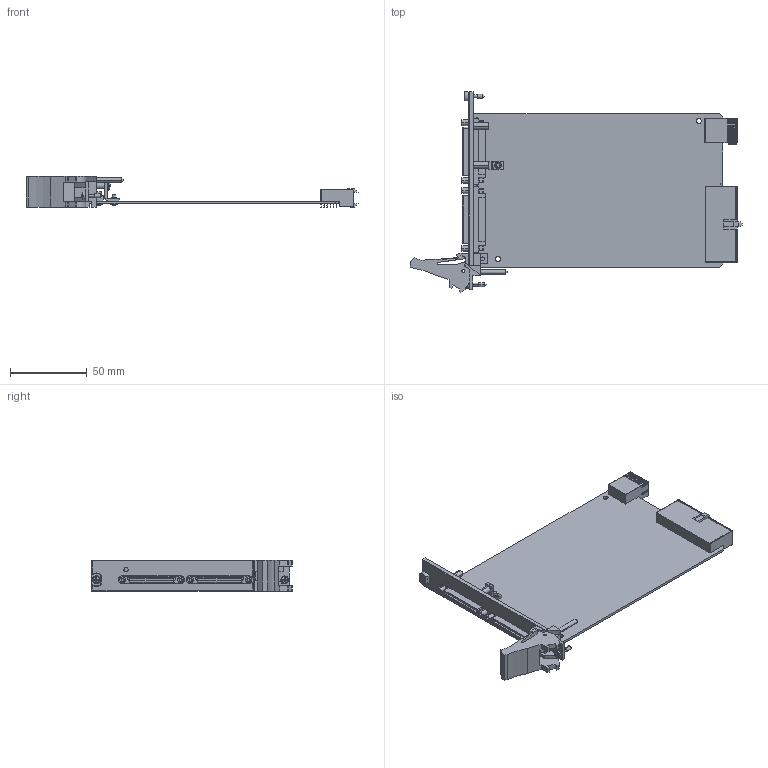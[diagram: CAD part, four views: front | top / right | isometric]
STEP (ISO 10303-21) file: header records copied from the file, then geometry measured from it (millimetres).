
FILE_DESCRIPTION((''),'2;1');
FILE_NAME('CU_PXI-733X_734X','2015-03-17T',('dkendric'),(''),'PRO/ENGINEER BY PARAMETRIC TECHNOLOGY CORPORATION, 2014000','PRO/ENGINEER BY PARAMETRIC TECHNOLOGY CORPORATION, 2014000','');
FILE_SCHEMA(('CONFIG_CONTROL_DESIGN'));
Length unit declared in the file: inch
Products named in the file (1): CU_PXI-733X_734X
Bounding box: 216.08 x 130.51 x 20.19 mm (x, y, z)
Volume: 55486.5 mm3; surface area: 52718.1 mm2
Topology: 1 solids, 1 shells, 1742 faces, 4525 edges, 2911 vertices
Faces by surface type: plane 1313, cylinder 365, cone 20, bspline 20, torus 14, sphere 10
Entity records: 53259 total; most frequent: CARTESIAN_POINT 9963, ORIENTED_EDGE 9002, DIRECTION 8796, EDGE_CURVE 4501, VECTOR 3512, LINE 3512, VERTEX_POINT 2930, AXIS2_PLACEMENT_3D 2642
